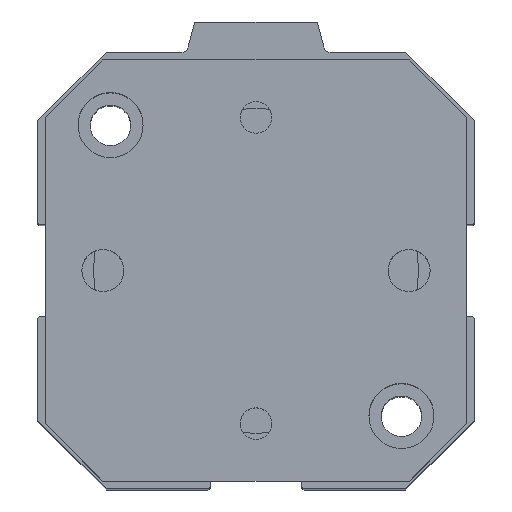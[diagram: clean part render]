
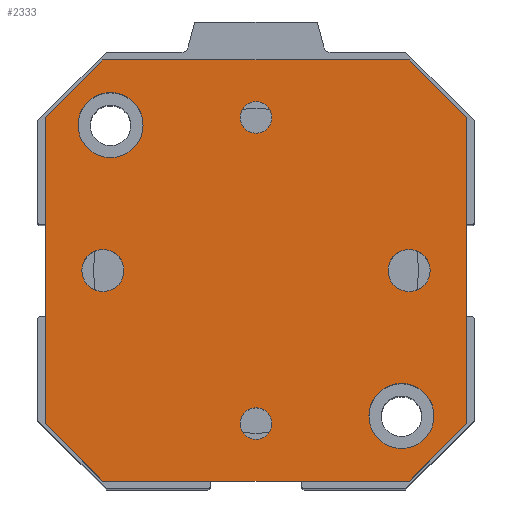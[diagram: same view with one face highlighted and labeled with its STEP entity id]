
A CAD part, top view. The second image highlights one B-rep face of the part: STEP entity #2333.
In plain terms, the highlighted planar face has unit normal (0, 0, 1).
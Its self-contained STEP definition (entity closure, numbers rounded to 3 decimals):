
#177=LINE('',#3896,#343);
#179=LINE('',#3900,#345);
#181=LINE('',#3904,#347);
#183=LINE('',#3908,#349);
#185=LINE('',#3912,#351);
#187=LINE('',#3916,#353);
#189=LINE('',#3920,#355);
#191=LINE('',#3923,#357);
#343=VECTOR('',#3235,40.);
#345=VECTOR('',#3239,10.607);
#347=VECTOR('',#3243,40.);
#349=VECTOR('',#3247,10.607);
#351=VECTOR('',#3251,40.);
#353=VECTOR('',#3255,10.607);
#355=VECTOR('',#3259,40.);
#357=VECTOR('',#3263,10.607);
#431=PLANE('',#2593);
#521=FACE_BOUND('',#846,.T.);
#522=FACE_BOUND('',#847,.T.);
#523=FACE_BOUND('',#848,.T.);
#524=FACE_BOUND('',#849,.T.);
#525=FACE_BOUND('',#850,.T.);
#526=FACE_BOUND('',#851,.T.);
#527=FACE_BOUND('',#852,.T.);
#846=EDGE_LOOP('',(#2038));
#847=EDGE_LOOP('',(#2039));
#848=EDGE_LOOP('',(#2040));
#849=EDGE_LOOP('',(#2041));
#850=EDGE_LOOP('',(#2042));
#851=EDGE_LOOP('',(#2043));
#852=EDGE_LOOP('',(#2044,#2045,#2046,#2047,#2048,#2049,#2050,#2051));
#961=CIRCLE('',#2549,2.067);
#963=CIRCLE('',#2552,2.067);
#968=CIRCLE('',#2560,2.75);
#972=CIRCLE('',#2567,2.75);
#981=CIRCLE('',#2582,4.25);
#982=CIRCLE('',#2584,4.25);
#1157=VERTEX_POINT('',#3814);
#1159=VERTEX_POINT('',#3819);
#1164=VERTEX_POINT('',#3832);
#1168=VERTEX_POINT('',#3843);
#1187=VERTEX_POINT('',#3887);
#1188=VERTEX_POINT('',#3890);
#1189=VERTEX_POINT('',#3893);
#1190=VERTEX_POINT('',#3895);
#1191=VERTEX_POINT('',#3899);
#1192=VERTEX_POINT('',#3903);
#1193=VERTEX_POINT('',#3907);
#1194=VERTEX_POINT('',#3911);
#1195=VERTEX_POINT('',#3915);
#1196=VERTEX_POINT('',#3919);
#1437=EDGE_CURVE('',#1157,#1157,#961,.T.);
#1439=EDGE_CURVE('',#1159,#1159,#963,.T.);
#1444=EDGE_CURVE('',#1164,#1164,#968,.T.);
#1448=EDGE_CURVE('',#1168,#1168,#972,.T.);
#1467=EDGE_CURVE('',#1187,#1187,#981,.T.);
#1468=EDGE_CURVE('',#1188,#1188,#982,.T.);
#1470=EDGE_CURVE('',#1190,#1189,#177,.T.);
#1472=EDGE_CURVE('',#1191,#1190,#179,.T.);
#1474=EDGE_CURVE('',#1192,#1191,#181,.T.);
#1476=EDGE_CURVE('',#1193,#1192,#183,.T.);
#1478=EDGE_CURVE('',#1194,#1193,#185,.T.);
#1480=EDGE_CURVE('',#1195,#1194,#187,.T.);
#1482=EDGE_CURVE('',#1196,#1195,#189,.T.);
#1484=EDGE_CURVE('',#1189,#1196,#191,.T.);
#2038=ORIENTED_EDGE('',*,*,#1437,.T.);
#2039=ORIENTED_EDGE('',*,*,#1439,.T.);
#2040=ORIENTED_EDGE('',*,*,#1444,.T.);
#2041=ORIENTED_EDGE('',*,*,#1448,.T.);
#2042=ORIENTED_EDGE('',*,*,#1467,.T.);
#2043=ORIENTED_EDGE('',*,*,#1468,.T.);
#2044=ORIENTED_EDGE('',*,*,#1484,.T.);
#2045=ORIENTED_EDGE('',*,*,#1482,.T.);
#2046=ORIENTED_EDGE('',*,*,#1480,.T.);
#2047=ORIENTED_EDGE('',*,*,#1478,.T.);
#2048=ORIENTED_EDGE('',*,*,#1476,.T.);
#2049=ORIENTED_EDGE('',*,*,#1474,.T.);
#2050=ORIENTED_EDGE('',*,*,#1472,.T.);
#2051=ORIENTED_EDGE('',*,*,#1470,.T.);
#2333=ADVANCED_FACE('',(#521,#522,#523,#524,#525,#526,#527),#431,.T.);
#2549=AXIS2_PLACEMENT_3D('',#3815,#3150,#3151);
#2552=AXIS2_PLACEMENT_3D('',#3820,#3156,#3157);
#2560=AXIS2_PLACEMENT_3D('',#3833,#3172,#3173);
#2567=AXIS2_PLACEMENT_3D('',#3844,#3186,#3187);
#2582=AXIS2_PLACEMENT_3D('',#3888,#3226,#3227);
#2584=AXIS2_PLACEMENT_3D('',#3891,#3230,#3231);
#2593=AXIS2_PLACEMENT_3D('',#3924,#3264,#3265);
#3150=DIRECTION('center_axis',(0.,0.,-1.));
#3151=DIRECTION('ref_axis',(1.,0.,0.));
#3156=DIRECTION('center_axis',(0.,0.,-1.));
#3157=DIRECTION('ref_axis',(1.,0.,0.));
#3172=DIRECTION('center_axis',(0.,0.,-1.));
#3173=DIRECTION('ref_axis',(1.,0.,0.));
#3186=DIRECTION('center_axis',(0.,0.,-1.));
#3187=DIRECTION('ref_axis',(1.,0.,0.));
#3226=DIRECTION('center_axis',(0.,0.,-1.));
#3227=DIRECTION('ref_axis',(-1.,0.,0.));
#3230=DIRECTION('center_axis',(0.,0.,-1.));
#3231=DIRECTION('ref_axis',(-1.,0.,0.));
#3235=DIRECTION('',(0.,1.,0.));
#3239=DIRECTION('',(0.707,0.707,0.));
#3243=DIRECTION('',(1.,0.,0.));
#3247=DIRECTION('',(0.707,-0.707,0.));
#3251=DIRECTION('',(0.,-1.,0.));
#3255=DIRECTION('',(-0.707,-0.707,0.));
#3259=DIRECTION('',(-1.,0.,0.));
#3263=DIRECTION('',(-0.707,0.707,0.));
#3264=DIRECTION('center_axis',(0.,0.,1.));
#3265=DIRECTION('ref_axis',(1.,0.,0.));
#3814=CARTESIAN_POINT('',(-22.067,0.,75.25));
#3815=CARTESIAN_POINT('Origin',(-20.,0.,75.25));
#3819=CARTESIAN_POINT('',(17.933,0.,75.25));
#3820=CARTESIAN_POINT('Origin',(20.,0.,75.25));
#3832=CARTESIAN_POINT('',(-2.75,20.,75.25));
#3833=CARTESIAN_POINT('Origin',(0.,20.,75.25));
#3843=CARTESIAN_POINT('',(-2.75,-20.,75.25));
#3844=CARTESIAN_POINT('Origin',(0.,-20.,75.25));
#3887=CARTESIAN_POINT('',(-14.75,-19.,75.25));
#3888=CARTESIAN_POINT('Origin',(-19.,-19.,75.25));
#3890=CARTESIAN_POINT('',(23.25,19.,75.25));
#3891=CARTESIAN_POINT('Origin',(19.,19.,75.25));
#3893=CARTESIAN_POINT('',(27.5,20.,75.25));
#3895=CARTESIAN_POINT('',(27.5,-20.,75.25));
#3896=CARTESIAN_POINT('',(27.5,20.,75.25));
#3899=CARTESIAN_POINT('',(20.,-27.5,75.25));
#3900=CARTESIAN_POINT('',(27.5,-20.,75.25));
#3903=CARTESIAN_POINT('',(-20.,-27.5,75.25));
#3904=CARTESIAN_POINT('',(20.,-27.5,75.25));
#3907=CARTESIAN_POINT('',(-27.5,-20.,75.25));
#3908=CARTESIAN_POINT('',(-20.,-27.5,75.25));
#3911=CARTESIAN_POINT('',(-27.5,20.,75.25));
#3912=CARTESIAN_POINT('',(-27.5,-20.,75.25));
#3915=CARTESIAN_POINT('',(-20.,27.5,75.25));
#3916=CARTESIAN_POINT('',(-27.5,20.,75.25));
#3919=CARTESIAN_POINT('',(20.,27.5,75.25));
#3920=CARTESIAN_POINT('',(-20.,27.5,75.25));
#3923=CARTESIAN_POINT('',(20.,27.5,75.25));
#3924=CARTESIAN_POINT('Origin',(0.,0.,75.25));
